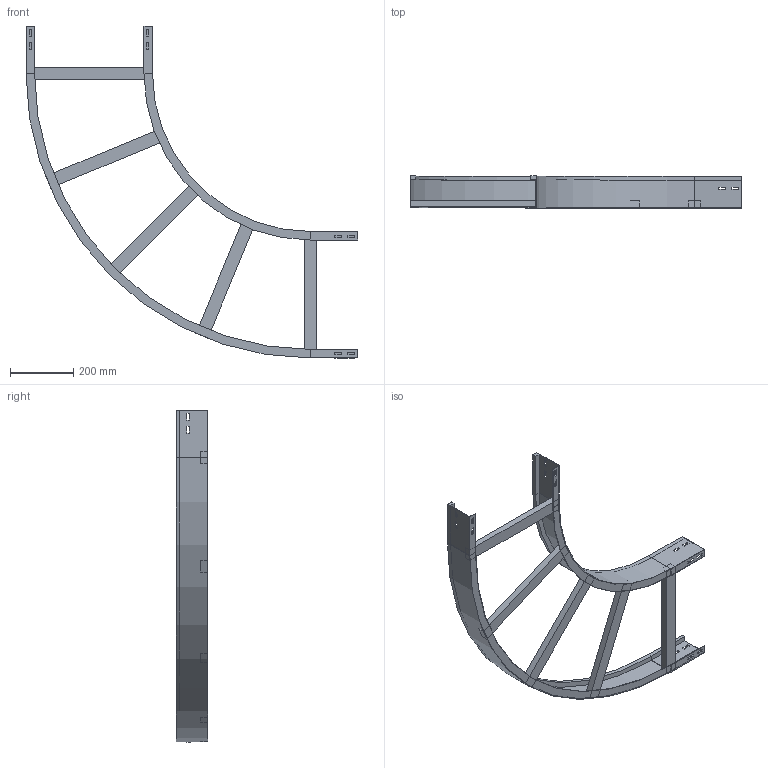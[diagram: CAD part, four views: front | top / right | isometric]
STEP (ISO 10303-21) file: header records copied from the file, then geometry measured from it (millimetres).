
FILE_DESCRIPTION (( 'STEP AP214' ), '1' );
FILE_NAME ('10B5D400.step', '2025-02-21T15:22:20', ( '' ), ( '' ), 'SwSTEP 2.0', 'SolidWorks 2023', '' );
FILE_SCHEMA (( 'AUTOMOTIVE_DESIGN' ));
Length unit declared in the file: millimetre
Products named in the file (4): TRAVERSINO_400; A2_LONGH.INTERNO 90°_H100_R500; 10B5D400; A2_LONGH.ESTERNO 90°_H100_R500+400
Assembly tree (7 placements, depth 2):
  10B5D400
    A2_LONGH.INTERNO 90°_H100_R500
    A2_LONGH.ESTERNO 90°_H100_R500+400
    TRAVERSINO_400  x5
Bounding box: 1050 x 100 x 1050 mm (x, y, z)
Volume: 2836080.8 mm3; surface area: 1046922.8 mm2
Topology: 7 solids, 7 shells, 146 faces, 364 edges, 232 vertices
Faces by surface type: plane 138, cylinder 8
Entity records: 3837 total; most frequent: CARTESIAN_POINT 648, ORIENTED_EDGE 632, DIRECTION 596, EDGE_CURVE 316, LINE 300, VECTOR 300, VERTEX_POINT 200, EDGE_LOOP 154
